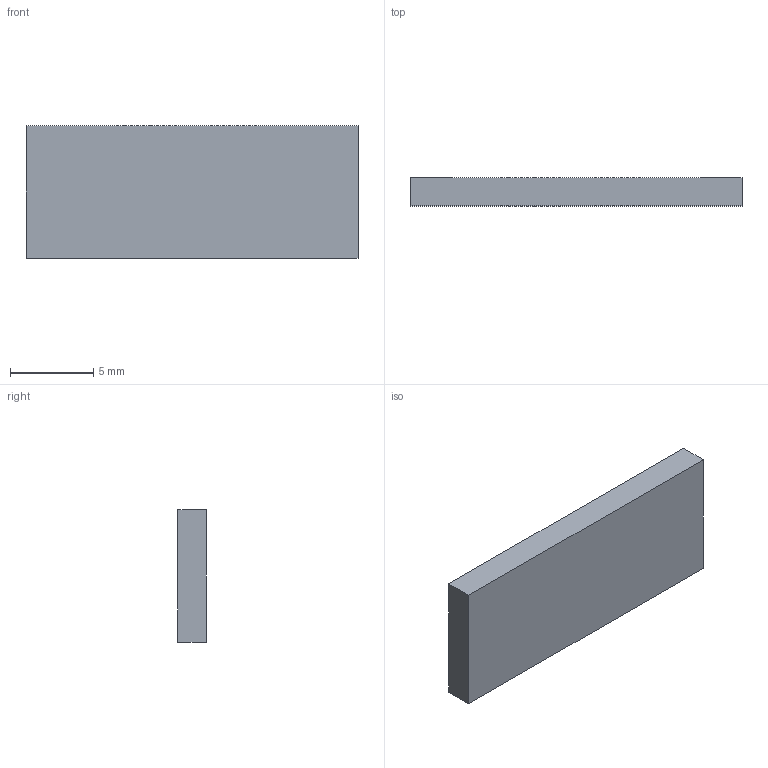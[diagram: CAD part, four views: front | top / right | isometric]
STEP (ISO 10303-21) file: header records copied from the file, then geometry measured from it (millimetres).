
FILE_DESCRIPTION(('STEP AP203'), '1');
FILE_NAME('R1-35-1-1', '', ('UNSPECIFIED'), ('UNSPECIFIED'), 'ASCON STEP Converter 1.6', 'ASCON Math Kernel', '');
FILE_SCHEMA(('CONFIG_CONTROL_DESIGN'));
Length unit declared in the file: millimetre
Bounding box: 20 x 1.71 x 8 mm (x, y, z)
Volume: 272.1 mm3; surface area: 415.4 mm2
Topology: 1 solids, 1 shells, 12 faces, 30 edges, 20 vertices
Faces by surface type: plane 12
Entity records: 494 total; most frequent: CARTESIAN_POINT 63, ORIENTED_EDGE 60, DIRECTION 56, EDGE_CURVE 30, LINE 30, VECTOR 30, VERTEX_POINT 20, AXIS2_PLACEMENT_3D 13
